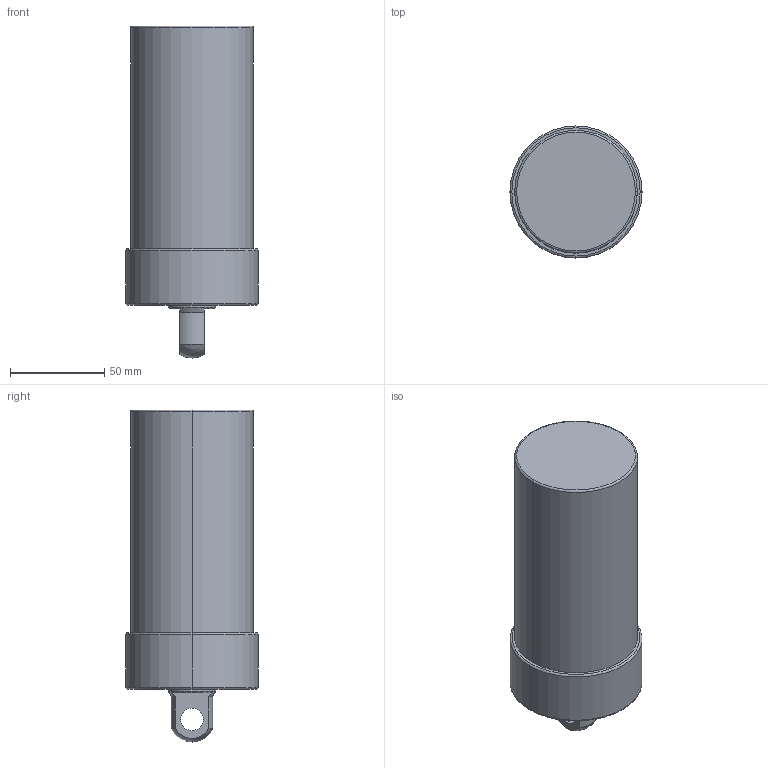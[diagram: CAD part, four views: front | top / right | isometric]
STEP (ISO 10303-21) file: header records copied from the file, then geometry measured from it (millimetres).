
FILE_DESCRIPTION (( 'STEP AP203' ), '1' );
FILE_NAME ('CLLU-065GP-085.STEP', '2020-01-08T00:31:13', ( '' ), ( '' ), 'SwSTEP 2.0', 'SolidWorks 2015', '' );
FILE_SCHEMA (( 'CONFIG_CONTROL_DESIGN' ));
Length unit declared in the file: millimetre
Products named in the file (1): CLLU-065GP-085
Bounding box: 70 x 70 x 176 mm (x, y, z)
Volume: 511099.1 mm3; surface area: 41052 mm2
Topology: 1 solids, 1 shells, 57 faces, 130 edges, 75 vertices
Faces by surface type: cylinder 22, cone 18, plane 9, torus 6, sphere 2
Entity records: 1643 total; most frequent: DIRECTION 308, CARTESIAN_POINT 267, ORIENTED_EDGE 244, AXIS2_PLACEMENT_3D 132, EDGE_CURVE 122, VERTEX_POINT 75, CIRCLE 74, EDGE_LOOP 67
